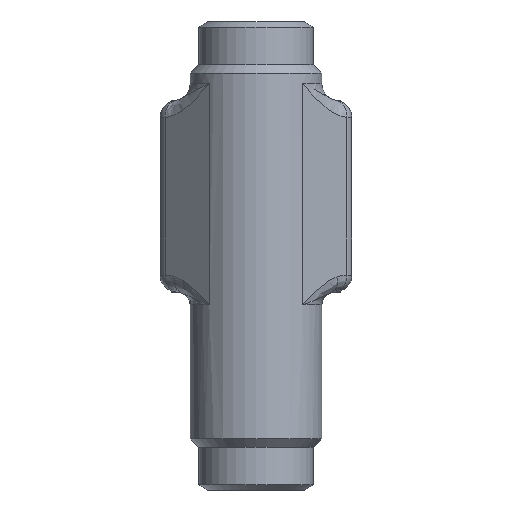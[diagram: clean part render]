
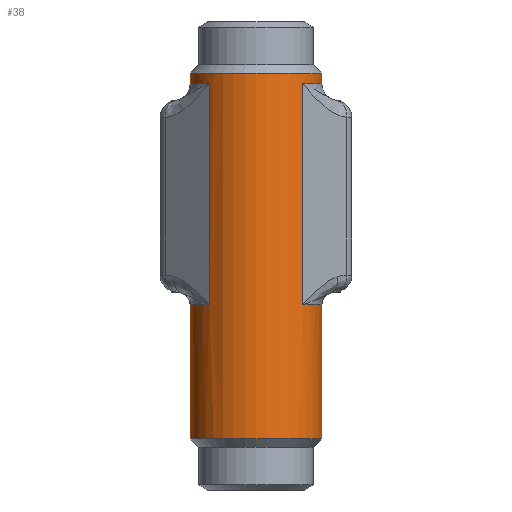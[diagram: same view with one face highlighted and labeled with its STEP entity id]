
A CAD part, front view. The second image highlights one B-rep face of the part: STEP entity #38.
In plain terms, the highlighted cylindrical face has radius 15.5 mm (diameter 31 mm), a partial arc.
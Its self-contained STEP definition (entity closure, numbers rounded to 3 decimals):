
#38 = ADVANCED_FACE ( 'NONE', ( #12805 ), #12806, .T. ) ;
#100 = CIRCLE ( 'NONE', #101, 15.5 ) ;
#101 = AXIS2_PLACEMENT_3D ( 'NONE', #102, #103, #104 ) ;
#102 = CARTESIAN_POINT ( 'NONE',  ( 0., 0., -79.5 ) ) ;
#103 = DIRECTION ( 'NONE',  ( 0., 0., 1. ) ) ;
#104 = DIRECTION ( 'NONE',  ( -1., 0., 0. ) ) ;
#145 = LINE ( 'NONE', #146, #147 ) ;
#146 = CARTESIAN_POINT ( 'NONE',  ( -10.96, -10.96, -45. ) ) ;
#147 = VECTOR ( 'NONE', #148, 1000. ) ;
#148 = DIRECTION ( 'NONE',  ( 0., 0., 1. ) ) ;
#254 = CARTESIAN_POINT ( 'NONE',  ( -15.5, 0., -48. ) ) ;
#263 = CARTESIAN_POINT ( 'NONE',  ( 10.96, -10.96, 4. ) ) ;
#16664 = VERTEX_POINT ( 'NONE', #4621 ) ;
#376 = CIRCLE ( 'NONE', #377, 15.5 ) ;
#377 = AXIS2_PLACEMENT_3D ( 'NONE', #378, #379, #380 ) ;
#378 = CARTESIAN_POINT ( 'NONE',  ( 0., 0., 4. ) ) ;
#379 = DIRECTION ( 'NONE',  ( 0., 0., 1. ) ) ;
#380 = DIRECTION ( 'NONE',  ( 1., 0., 0. ) ) ;
#429 = CARTESIAN_POINT ( 'NONE',  ( -10.96, -10.96, 4. ) ) ;
#446 = LINE ( 'NONE', #447, #448 ) ;
#447 = CARTESIAN_POINT ( 'NONE',  ( 10.96, -10.96, -45. ) ) ;
#448 = VECTOR ( 'NONE', #449, 1000. ) ;
#449 = DIRECTION ( 'NONE',  ( 0., 0., 1. ) ) ;
#457 = CIRCLE ( 'NONE', #458, 15.5 ) ;
#458 = AXIS2_PLACEMENT_3D ( 'NONE', #460, #461, #462 ) ;
#460 = CARTESIAN_POINT ( 'NONE',  ( 0., 0., -48. ) ) ;
#461 = DIRECTION ( 'NONE',  ( 0., 0., -1. ) ) ;
#462 = DIRECTION ( 'NONE',  ( 1., 0., 0. ) ) ;
#634 = CARTESIAN_POINT ( 'NONE',  ( -15.5, 0., 4. ) ) ;
#649 = CARTESIAN_POINT ( 'NONE',  ( 15.5, 0., -69.245 ) ) ;
#801 = EDGE_CURVE ( 'NONE', #5380, #16664, #15290, .T. ) ;
#824 = CARTESIAN_POINT ( 'NONE',  ( 15.5, 0., -48. ) ) ;
#879 = CIRCLE ( 'NONE', #880, 15.5 ) ;
#880 = AXIS2_PLACEMENT_3D ( 'NONE', #881, #882, #883 ) ;
#881 = CARTESIAN_POINT ( 'NONE',  ( 0., 0., 4. ) ) ;
#882 = DIRECTION ( 'NONE',  ( 0., 0., 1. ) ) ;
#883 = DIRECTION ( 'NONE',  ( 1., 0., 0. ) ) ;
#17297 = LINE ( 'NONE', #17298, #17299 ) ;
#17298 = CARTESIAN_POINT ( 'NONE',  ( -15.5, 0., -45. ) ) ;
#17299 = VECTOR ( 'NONE', #17300, 1000. ) ;
#17300 = DIRECTION ( 'NONE',  ( 0., 0., 1. ) ) ;
#981 = CARTESIAN_POINT ( 'NONE',  ( -15.5, 0., -69.245 ) ) ;
#17408 = CARTESIAN_POINT ( 'NONE',  ( -15.5, 0., 6.5 ) ) ;
#1267 = EDGE_CURVE ( 'NONE', #7500, #3620, #15590, .T. ) ;
#1625 = ORIENTED_EDGE ( 'NONE', *, *, #1267, .T. ) ;
#1716 = EDGE_CURVE ( 'NONE', #3299, #11590, #15977, .T. ) ;
#1808 = EDGE_LOOP ( 'NONE', ( #2601, #9226, #9282, #13564, #14405, #7994, #2178, #11535, #11009, #10849, #10574, #2834, #12697, #1625 ) ) ;
#2178 = ORIENTED_EDGE ( 'NONE', *, *, #15912, .T. ) ;
#2566 = EDGE_CURVE ( 'NONE', #10736, #5624, #100, .T. ) ;
#2601 = ORIENTED_EDGE ( 'NONE', *, *, #11371, .F. ) ;
#2711 = EDGE_CURVE ( 'NONE', #12743, #3086, #145, .T. ) ;
#2834 = ORIENTED_EDGE ( 'NONE', *, *, #2711, .F. ) ;
#3086 = VERTEX_POINT ( 'NONE', #429 ) ;
#3299 = VERTEX_POINT ( 'NONE', #634 ) ;
#3441 = VERTEX_POINT ( 'NONE', #824 ) ;
#3510 = EDGE_CURVE ( 'NONE', #3299, #3086, #879, .T. ) ;
#3620 = VERTEX_POINT ( 'NONE', #981 ) ;
#4621 = CARTESIAN_POINT ( 'NONE',  ( 15.5, 0., 6.5 ) ) ;
#4682 = CARTESIAN_POINT ( 'NONE',  ( 10.96, -10.96, -48. ) ) ;
#5380 = VERTEX_POINT ( 'NONE', #9803 ) ;
#5624 = VERTEX_POINT ( 'NONE', #9967 ) ;
#7064 = CARTESIAN_POINT ( 'NONE',  ( -10.96, -10.96, -48. ) ) ;
#7500 = VERTEX_POINT ( 'NONE', #254 ) ;
#7518 = VERTEX_POINT ( 'NONE', #263 ) ;
#7702 = EDGE_CURVE ( 'NONE', #8425, #7518, #446, .T. ) ;
#7721 = EDGE_CURVE ( 'NONE', #12743, #7500, #457, .T. ) ;
#7904 = VERTEX_POINT ( 'NONE', #649 ) ;
#7994 = ORIENTED_EDGE ( 'NONE', *, *, #7702, .T. ) ;
#8425 = VERTEX_POINT ( 'NONE', #4682 ) ;
#8582 = LINE ( 'NONE', #8586, #8587 ) ;
#8586 = CARTESIAN_POINT ( 'NONE',  ( 15.5, 0., -69.245 ) ) ;
#8587 = VECTOR ( 'NONE', #8588, 1000. ) ;
#8588 = DIRECTION ( 'NONE',  ( 0., 0., -1. ) ) ;
#9226 = ORIENTED_EDGE ( 'NONE', *, *, #2566, .T. ) ;
#9282 = ORIENTED_EDGE ( 'NONE', *, *, #9920, .T. ) ;
#9803 = CARTESIAN_POINT ( 'NONE',  ( 15.5, 0., 4. ) ) ;
#9920 = EDGE_CURVE ( 'NONE', #5624, #7904, #15254, .T. ) ;
#9967 = CARTESIAN_POINT ( 'NONE',  ( 15.5, 0., -79.5 ) ) ;
#10037 = CIRCLE ( 'NONE', #10038, 15.5 ) ;
#10038 = AXIS2_PLACEMENT_3D ( 'NONE', #10039, #10040, #10041 ) ;
#10039 = CARTESIAN_POINT ( 'NONE',  ( 0., 0., -48. ) ) ;
#10040 = DIRECTION ( 'NONE',  ( 0., 0., -1. ) ) ;
#10041 = DIRECTION ( 'NONE',  ( 1., 0., 0. ) ) ;
#10574 = ORIENTED_EDGE ( 'NONE', *, *, #3510, .T. ) ;
#10717 = EDGE_CURVE ( 'NONE', #16664, #11590, #15838, .T. ) ;
#10736 = VERTEX_POINT ( 'NONE', #15860 ) ;
#10849 = ORIENTED_EDGE ( 'NONE', *, *, #1716, .F. ) ;
#11009 = ORIENTED_EDGE ( 'NONE', *, *, #10717, .T. ) ;
#11371 = EDGE_CURVE ( 'NONE', #10736, #3620, #17297, .T. ) ;
#11535 = ORIENTED_EDGE ( 'NONE', *, *, #801, .T. ) ;
#11590 = VERTEX_POINT ( 'NONE', #17408 ) ;
#12697 = ORIENTED_EDGE ( 'NONE', *, *, #7721, .T. ) ;
#12743 = VERTEX_POINT ( 'NONE', #7064 ) ;
#12805 = FACE_OUTER_BOUND ( 'NONE', #1808, .T. ) ;
#12806 = CYLINDRICAL_SURFACE ( 'NONE', #12807, 15.5 ) ;
#12807 = AXIS2_PLACEMENT_3D ( 'NONE', #12808, #12809, #12810 ) ;
#12808 = CARTESIAN_POINT ( 'NONE',  ( 0., 0., -45. ) ) ;
#12809 = DIRECTION ( 'NONE',  ( 0., 0., 1. ) ) ;
#12810 = DIRECTION ( 'NONE',  ( 1., 0., 0. ) ) ;
#13472 = EDGE_CURVE ( 'NONE', #3441, #7904, #8582, .T. ) ;
#13564 = ORIENTED_EDGE ( 'NONE', *, *, #13472, .F. ) ;
#14116 = EDGE_CURVE ( 'NONE', #3441, #8425, #10037, .T. ) ;
#14405 = ORIENTED_EDGE ( 'NONE', *, *, #14116, .T. ) ;
#15254 = LINE ( 'NONE', #15255, #15256 ) ;
#15255 = CARTESIAN_POINT ( 'NONE',  ( 15.5, 0., -45. ) ) ;
#15256 = VECTOR ( 'NONE', #15257, 1000. ) ;
#15257 = DIRECTION ( 'NONE',  ( 0., 0., 1. ) ) ;
#15290 = LINE ( 'NONE', #15291, #15292 ) ;
#15291 = CARTESIAN_POINT ( 'NONE',  ( 15.5, 0., -45. ) ) ;
#15292 = VECTOR ( 'NONE', #15293, 1000. ) ;
#15293 = DIRECTION ( 'NONE',  ( 0., 0., 1. ) ) ;
#15590 = LINE ( 'NONE', #15591, #15592 ) ;
#15591 = CARTESIAN_POINT ( 'NONE',  ( -15.5, 0., -69.245 ) ) ;
#15592 = VECTOR ( 'NONE', #15593, 1000. ) ;
#15593 = DIRECTION ( 'NONE',  ( 0., 0., -1. ) ) ;
#15838 = CIRCLE ( 'NONE', #15839, 15.5 ) ;
#15839 = AXIS2_PLACEMENT_3D ( 'NONE', #15840, #15841, #15842 ) ;
#15840 = CARTESIAN_POINT ( 'NONE',  ( 0., 0., 6.5 ) ) ;
#15841 = DIRECTION ( 'NONE',  ( 0., 0., -1. ) ) ;
#15842 = DIRECTION ( 'NONE',  ( 1., 0., 0. ) ) ;
#15860 = CARTESIAN_POINT ( 'NONE',  ( -15.5, 0., -79.5 ) ) ;
#15912 = EDGE_CURVE ( 'NONE', #7518, #5380, #376, .T. ) ;
#15977 = LINE ( 'NONE', #15978, #15979 ) ;
#15978 = CARTESIAN_POINT ( 'NONE',  ( -15.5, 0., -45. ) ) ;
#15979 = VECTOR ( 'NONE', #15980, 1000. ) ;
#15980 = DIRECTION ( 'NONE',  ( 0., 0., 1. ) ) ;
